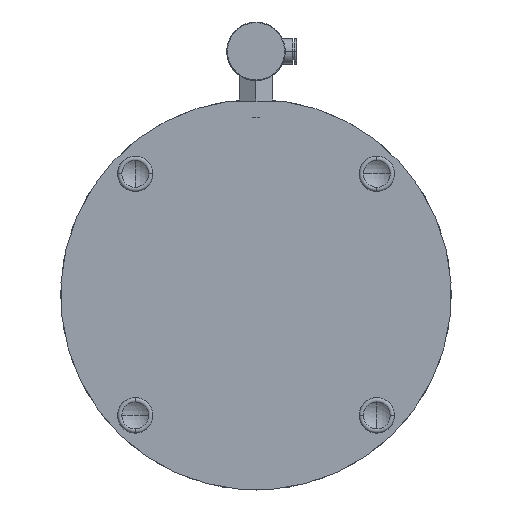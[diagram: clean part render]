
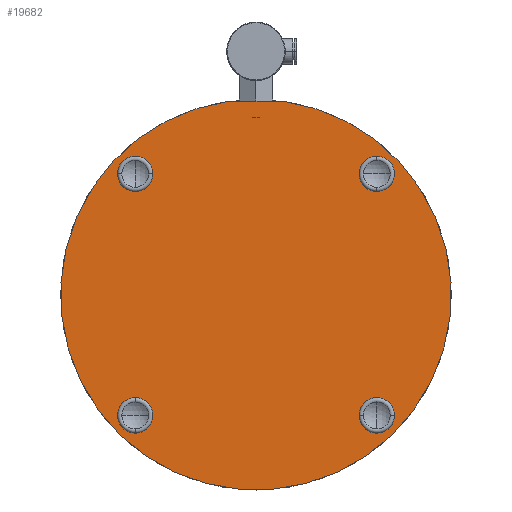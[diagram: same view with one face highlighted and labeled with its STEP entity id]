
A CAD part, front view. The second image highlights one B-rep face of the part: STEP entity #19682.
In plain terms, the highlighted planar face has unit normal (0, -1, 0).
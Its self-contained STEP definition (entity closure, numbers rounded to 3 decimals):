
#703 = CARTESIAN_POINT ( 'NONE',  ( 68., 0., -68. ) ) ;
#704 = DIRECTION ( 'NONE',  ( 0., -1., 0. ) ) ;
#705 = DIRECTION ( 'NONE',  ( 0., 0., 1. ) ) ;
#806 = CARTESIAN_POINT ( 'NONE',  ( -68., 0., 68. ) ) ;
#807 = DIRECTION ( 'NONE',  ( 0., -1., 0. ) ) ;
#808 = DIRECTION ( 'NONE',  ( 0., 0., 1. ) ) ;
#855 = CARTESIAN_POINT ( 'NONE',  ( 68., 0., -68. ) ) ;
#856 = DIRECTION ( 'NONE',  ( 0., -1., 0. ) ) ;
#857 = DIRECTION ( 'NONE',  ( 0., 0., 1. ) ) ;
#878 = CARTESIAN_POINT ( 'NONE',  ( -68., 0., -68. ) ) ;
#879 = DIRECTION ( 'NONE',  ( 0., -1., 0. ) ) ;
#880 = DIRECTION ( 'NONE',  ( 0., 0., 1. ) ) ;
#927 = CARTESIAN_POINT ( 'NONE',  ( -68., 0., -68. ) ) ;
#928 = DIRECTION ( 'NONE',  ( 0., -1., 0. ) ) ;
#929 = DIRECTION ( 'NONE',  ( 0., 0., 1. ) ) ;
#940 = CARTESIAN_POINT ( 'NONE',  ( 0., 0., 0. ) ) ;
#941 = DIRECTION ( 'NONE',  ( 0., -1., 0. ) ) ;
#942 = DIRECTION ( 'NONE',  ( 0., 0., 1. ) ) ;
#952 = LINE ( 'NONE', #957, #6098 ) ;
#953 = CARTESIAN_POINT ( 'NONE',  ( 68., 0., 68. ) ) ;
#954 = DIRECTION ( 'NONE',  ( 0., -1., 0. ) ) ;
#955 = DIRECTION ( 'NONE',  ( 0., 0., 1. ) ) ;
#957 = CARTESIAN_POINT ( 'NONE',  ( -15., 0., 109. ) ) ;
#958 = DIRECTION ( 'NONE',  ( 1., 0., 0. ) ) ;
#1658 = CARTESIAN_POINT ( 'NONE',  ( -68., 0., 68. ) ) ;
#1659 = DIRECTION ( 'NONE',  ( 0., -1., 0. ) ) ;
#1660 = DIRECTION ( 'NONE',  ( 0., 0., 1. ) ) ;
#1690 = CARTESIAN_POINT ( 'NONE',  ( 68., 0., 68. ) ) ;
#1691 = DIRECTION ( 'NONE',  ( 0., -1., 0. ) ) ;
#1692 = DIRECTION ( 'NONE',  ( 0., 0., 1. ) ) ;
#1808 = EDGE_CURVE ( 'NONE', #13165, #11981, #14009, .T. ) ;
#1819 = EDGE_CURVE ( 'NONE', #12994, #7942, #13878, .T. ) ;
#1827 = EDGE_CURVE ( 'NONE', #12974, #13236, #14072, .T. ) ;
#1848 = EDGE_CURVE ( 'NONE', #11981, #13165, #13856, .T. ) ;
#1850 = EDGE_CURVE ( 'NONE', #13236, #12974, #13852, .T. ) ;
#1856 = EDGE_CURVE ( 'NONE', #13061, #13005, #14040, .T. ) ;
#1872 = EDGE_CURVE ( 'NONE', #13005, #13061, #6104, .T. ) ;
#1876 = EDGE_CURVE ( 'NONE', #13011, #11987, #6377, .T. ) ;
#1880 = EDGE_CURVE ( 'NONE', #7942, #12994, #6031, .T. ) ;
#1882 = EDGE_CURVE ( 'NONE', #13011, #11987, #952, .T. ) ;
#4182 = CARTESIAN_POINT ( 'NONE',  ( -68., 0., 74.25 ) ) ;
#4188 = CARTESIAN_POINT ( 'NONE',  ( 14.799, 0., 109. ) ) ;
#4326 = CARTESIAN_POINT ( 'NONE',  ( 68., 0., -74.25 ) ) ;
#4346 = CARTESIAN_POINT ( 'NONE',  ( 68., 0., 61.75 ) ) ;
#4357 = CARTESIAN_POINT ( 'NONE',  ( -68., 0., -61.75 ) ) ;
#4363 = CARTESIAN_POINT ( 'NONE',  ( -14.799, 0., 109. ) ) ;
#4413 = CARTESIAN_POINT ( 'NONE',  ( -68., 0., -74.25 ) ) ;
#4517 = CARTESIAN_POINT ( 'NONE',  ( -68., 0., 61.75 ) ) ;
#4588 = CARTESIAN_POINT ( 'NONE',  ( 68., 0., -61.75 ) ) ;
#6031 = CIRCLE ( 'NONE', #6070, 6.25 ) ;
#6070 = AXIS2_PLACEMENT_3D ( 'NONE', #953, #954, #955 ) ;
#6098 = VECTOR ( 'NONE', #958, 1000. ) ;
#6100 = AXIS2_PLACEMENT_3D ( 'NONE', #927, #928, #929 ) ;
#6104 = CIRCLE ( 'NONE', #6100, 6.25 ) ;
#6130 = AXIS2_PLACEMENT_3D ( 'NONE', #940, #941, #942 ) ;
#6377 = CIRCLE ( 'NONE', #6130, 110. ) ;
#7942 = VERTEX_POINT ( 'NONE', #14337 ) ;
#11981 = VERTEX_POINT ( 'NONE', #4182 ) ;
#11987 = VERTEX_POINT ( 'NONE', #4188 ) ;
#12440 = ORIENTED_EDGE ( 'NONE', *, *, #1872, .F. ) ;
#12442 = ORIENTED_EDGE ( 'NONE', *, *, #1856, .F. ) ;
#12449 = ORIENTED_EDGE ( 'NONE', *, *, #1819, .F. ) ;
#12462 = ORIENTED_EDGE ( 'NONE', *, *, #1850, .F. ) ;
#12478 = ORIENTED_EDGE ( 'NONE', *, *, #1848, .F. ) ;
#12487 = ORIENTED_EDGE ( 'NONE', *, *, #1882, .F. ) ;
#12515 = ORIENTED_EDGE ( 'NONE', *, *, #1876, .T. ) ;
#12519 = ORIENTED_EDGE ( 'NONE', *, *, #1808, .F. ) ;
#12542 = ORIENTED_EDGE ( 'NONE', *, *, #1827, .F. ) ;
#12543 = ORIENTED_EDGE ( 'NONE', *, *, #1880, .F. ) ;
#12974 = VERTEX_POINT ( 'NONE', #4326 ) ;
#12994 = VERTEX_POINT ( 'NONE', #4346 ) ;
#13005 = VERTEX_POINT ( 'NONE', #4357 ) ;
#13011 = VERTEX_POINT ( 'NONE', #4363 ) ;
#13061 = VERTEX_POINT ( 'NONE', #4413 ) ;
#13165 = VERTEX_POINT ( 'NONE', #4517 ) ;
#13236 = VERTEX_POINT ( 'NONE', #4588 ) ;
#13852 = CIRCLE ( 'NONE', #13941, 6.25 ) ;
#13856 = CIRCLE ( 'NONE', #14116, 6.25 ) ;
#13878 = CIRCLE ( 'NONE', #13992, 6.25 ) ;
#13941 = AXIS2_PLACEMENT_3D ( 'NONE', #855, #856, #857 ) ;
#13974 = AXIS2_PLACEMENT_3D ( 'NONE', #878, #879, #880 ) ;
#13992 = AXIS2_PLACEMENT_3D ( 'NONE', #1690, #1691, #1692 ) ;
#14009 = CIRCLE ( 'NONE', #14102, 6.25 ) ;
#14040 = CIRCLE ( 'NONE', #13974, 6.25 ) ;
#14052 = AXIS2_PLACEMENT_3D ( 'NONE', #703, #704, #705 ) ;
#14072 = CIRCLE ( 'NONE', #14052, 6.25 ) ;
#14102 = AXIS2_PLACEMENT_3D ( 'NONE', #1658, #1659, #1660 ) ;
#14116 = AXIS2_PLACEMENT_3D ( 'NONE', #806, #807, #808 ) ;
#14337 = CARTESIAN_POINT ( 'NONE',  ( 68., 0., 74.25 ) ) ;
#14916 = PLANE ( 'NONE',  #18032 ) ;
#14922 = FACE_OUTER_BOUND ( 'NONE', #15744, .T. ) ;
#14923 = FACE_BOUND ( 'NONE', #15841, .T. ) ;
#14927 = FACE_BOUND ( 'NONE', #18483, .T. ) ;
#14929 = CARTESIAN_POINT ( 'NONE',  ( 0., 0., 0. ) ) ;
#14931 = FACE_BOUND ( 'NONE', #15867, .T. ) ;
#14934 = FACE_BOUND ( 'NONE', #15790, .T. ) ;
#14935 = DIRECTION ( 'NONE',  ( 0., -1., 0. ) ) ;
#14936 = DIRECTION ( 'NONE',  ( 0., 0., 1. ) ) ;
#15744 = EDGE_LOOP ( 'NONE', ( #12515, #12487 ) ) ;
#15790 = EDGE_LOOP ( 'NONE', ( #12440, #12442 ) ) ;
#15841 = EDGE_LOOP ( 'NONE', ( #12478, #12519 ) ) ;
#15867 = EDGE_LOOP ( 'NONE', ( #12462, #12542 ) ) ;
#18032 = AXIS2_PLACEMENT_3D ( 'NONE', #14929, #14935, #14936 ) ;
#18483 = EDGE_LOOP ( 'NONE', ( #12543, #12449 ) ) ;
#19682 = ADVANCED_FACE ( 'NONE', ( #14923, #14927, #14931, #14934, #14922 ), #14916, .T. ) ;
